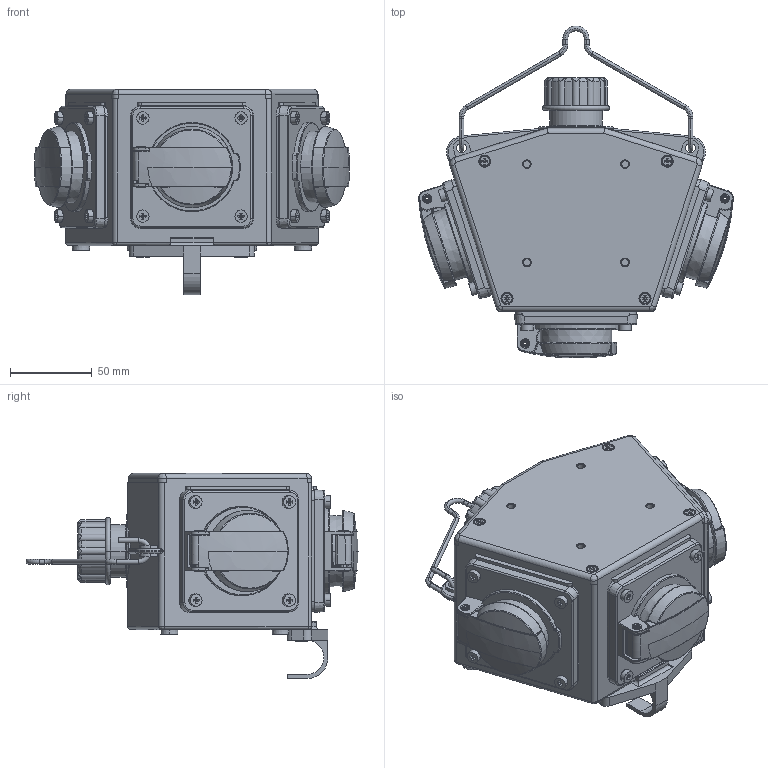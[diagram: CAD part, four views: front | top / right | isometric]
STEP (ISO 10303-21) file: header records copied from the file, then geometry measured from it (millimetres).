
FILE_DESCRIPTION((''),'2;1');
FILE_NAME('1117210_ASM_SW0001','2018-05-22T',('gisse'),('MENNEKES'),'PRO/ENGINEER BY PARAMETRIC TECHNOLOGY CORPORATION, 2015440','PRO/ENGINEER BY PARAMETRIC TECHNOLOGY CORPORATION, 2015440','');
FILE_SCHEMA(('AUTOMOTIVE_DESIGN { 1 0 10303 214 1 1 1 1 }'));
Products named in the file (1): 1117210_ASM_SW0001
Bounding box: 192.44 x 202.96 x 125.5 mm (x, y, z)
Volume: 1576488.4 mm3; surface area: 112854.7 mm2
Topology: 2 solids, 5 shells, 1635 faces, 4097 edges, 2514 vertices
Faces by surface type: plane 503, cylinder 479, torus 239, bspline 200, cone 182, sphere 32
Entity records: 92580 total; most frequent: CARTESIAN_POINT 24433, ORIENTED_EDGE 8110, DIRECTION 7623, PRESENTATION_STYLE_ASSIGNMENT 5581, STYLED_ITEM 4057, CURVE_STYLE 4055, EDGE_CURVE 4055, AXIS2_PLACEMENT_3D 3107
